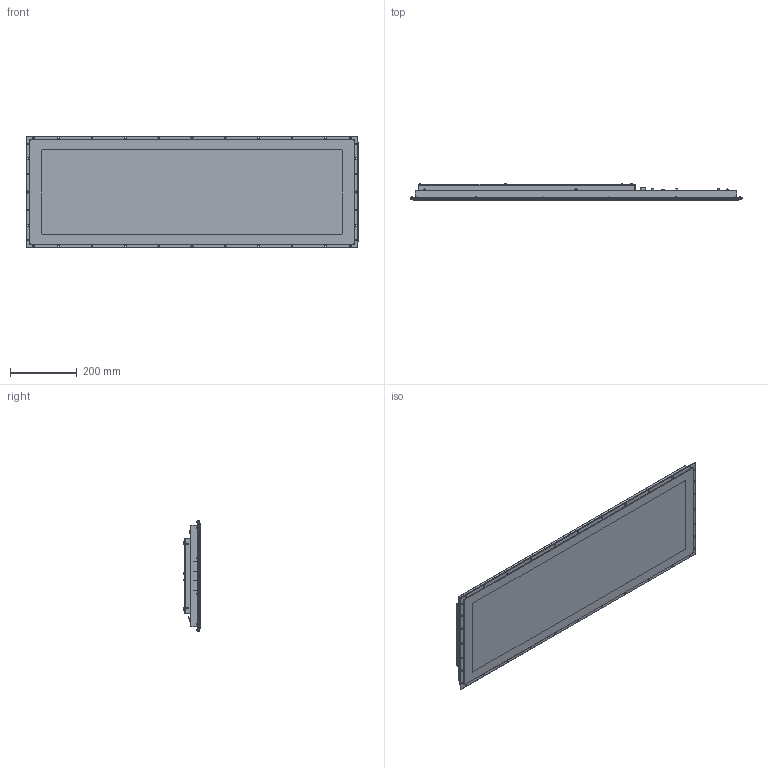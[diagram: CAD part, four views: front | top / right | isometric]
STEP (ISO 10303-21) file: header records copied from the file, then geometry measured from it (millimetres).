
FILE_DESCRIPTION(/* description */ ('fel4B-05A-38,0 Zoll DM-Line'),/* implementation_level */ '2;1');
FILE_NAME(/* name */ 'Z:\Teildatei Inventor\Inventor-Bibliothek\0000 0000 Bauteile\Bildschirme\TFT 38 Zoll Touch\00004961 fel4B-05A-38,0 Zoll DM-Line.stp',/* time_stamp */ '2019-11-04T13:39:54+01:00',/* author */ ('Markus Lahey'),/* organization */ (''),/* preprocessor_version */ 'ST-DEVELOPER v17.2',/* originating_system */ 'Autodesk Inventor 2019',/* authorisation */ '');
FILE_SCHEMA (('AUTOMOTIVE_DESIGN { 1 0 10303 214 3 1 1 }'));
Products named in the file (1): 00004961
Bounding box: 995.04 x 48.65 x 335.5 mm (x, y, z)
Volume: 6492278.7 mm3; surface area: 2579384.9 mm2
Topology: 117 solids, 117 shells, 2785 faces, 7116 edges, 4699 vertices
Faces by surface type: plane 1614, cylinder 584, cone 350, bspline 143, torus 82, sphere 12
Full cylindrical faces by diameter (mm): 0.4 x11, 1.5 x3, 1.567 x20, 2 x40, 2.2 x80, 2.459 x38, 3 x26, 3.1 x2, 3.2 x4, 3.242 x8, 3.45 x4, 3.6 x4, 3.8 x20, 4 x8, 4.2 x8, 4.917 x4, 5 x22, 5.41 x10, 5.42 x14, 5.6 x5, 5.62 x4, 5.7 x14, 6 x48, 6.5 x8, 7.5 x5, 8 x8, 14 x4, 15 x4
Entity records: 90376 total; most frequent: CARTESIAN_POINT 19774, ORIENTED_EDGE 14112, DIRECTION 13648, EDGE_CURVE 7056, AXIS2_PLACEMENT_3D 4865, VERTEX_POINT 4699, LINE 3918, VECTOR 3918
